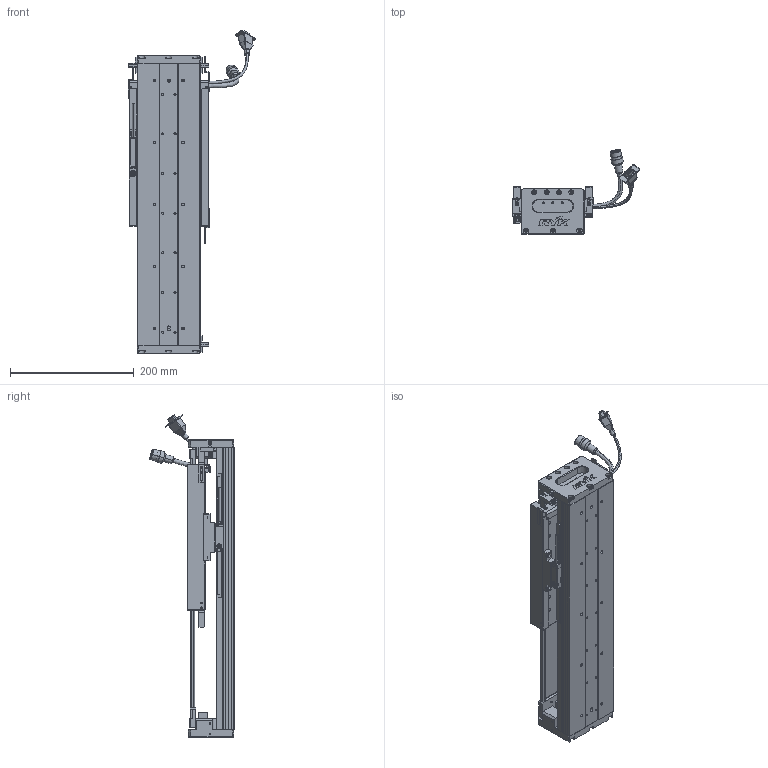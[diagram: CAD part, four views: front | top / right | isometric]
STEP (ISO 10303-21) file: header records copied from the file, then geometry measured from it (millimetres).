
FILE_DESCRIPTION (( 'STEP AP203' ), '1' );
FILE_NAME ('Z3-RY100D-1-L500-B-K.SLDASM_0150.step', '2021-05-17T02:49:20', ( '盈信电脑' ), ( '东莞市道滘镇水果街19号' ), 'SwSTEP 2.0', 'SolidWorks 2016', '' );
FILE_SCHEMA (( 'CONFIG_CONTROL_DESIGN' ));
Length unit declared in the file: millimetre
Products named in the file (36): Z3-RY100D-500-倰第菁釱_0150; HARNESS; 140雄赽晤鎢ん堤盄; COVER; HARNESS-Part-2; 140蚥薯蝶輸; SCALE-Part-2; COVER-Part-1; SHIELDPLATE; Z3-RY100D-1-L500-B-K.SLDASM_0150; Z-100詩湍傷裔啣; HOLDER0; Z-RY100D覜茼んえ; SCALE; 080黍杅芛假蚾釱21遴; SCREW-M1.7; HARNESS-Part-1; LABEL-Part-1; Z3-RY100铝滑块（21款）; SCREW-M1.6; SEAL; LABEL; SEAL-Part-1; Z-RY100D詩湍狟揤裔; SCREW-M1.6-2; SCREW-M1.6-3; PSLH080_PSLF2; 覜茼ん672; SCALE-Part-1; Z3-RY100-L500詩湍90mm遵_0150; PBU_SHEET; 100-Z-臏賑輸盄裔(21遴); SCREW-M1.6-1; 榋妏寠巭燃_暯_M2_2; Z-RY100D詩湍奻揤裔; SCREW-M1.7-1
Assembly tree (43 placements, depth 4):
  Z3-RY100D-1-L500-B-K.SLDASM_0150
    Z3-RY100D-500-倰第菁釱_0150
    Z3-RY100铝滑块（21款）
    PSLH080_PSLF2
      SCALE
        SCALE-Part-1
        SCALE-Part-2
      HARNESS
        HARNESS-Part-1
        HARNESS-Part-2
      LABEL
        LABEL-Part-1
      COVER
        COVER-Part-1
      SEAL
        SEAL-Part-1
      榋妏寠巭燃_暯_M2_2
      SHIELDPLATE
      SCREW-M1.7
      SCREW-M1.7-1
      PBU_SHEET
      SCREW-M1.6
      SCREW-M1.6-1
      SCREW-M1.6-2
      SCREW-M1.6-3
      HOLDER0
    080黍杅芛假蚾釱21遴
    Z-100詩湍傷裔啣  x2
    140蚥薯蝶輸  x2
    覜茼ん672  x3
    Z-RY100D覜茼んえ  x3
    100-Z-臏賑輸盄裔(21遴)
    140雄赽晤鎢ん堤盄
    Z3-RY100-L500詩湍90mm遵_0150
    Z-RY100D詩湍狟揤裔  x2
    Z-RY100D詩湍奻揤裔  x2
Bounding box: 205.84 x 136.11 x 520.43 mm (x, y, z)
Volume: 1454112.8 mm3; surface area: 529691.3 mm2
Topology: 38 solids, 38 shells, 2433 faces, 6265 edges, 3944 vertices
Faces by surface type: plane 1099, cylinder 986, cone 226, torus 69, bspline 53
Entity records: 64083 total; most frequent: CARTESIAN_POINT 13549, DIRECTION 10051, ORIENTED_EDGE 9410, EDGE_CURVE 4705, AXIS2_PLACEMENT_3D 3650, VERTEX_POINT 3012, VECTOR 2751, LINE 2751
